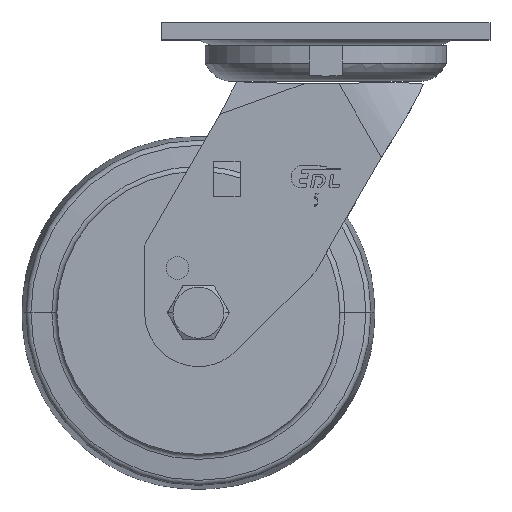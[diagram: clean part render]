
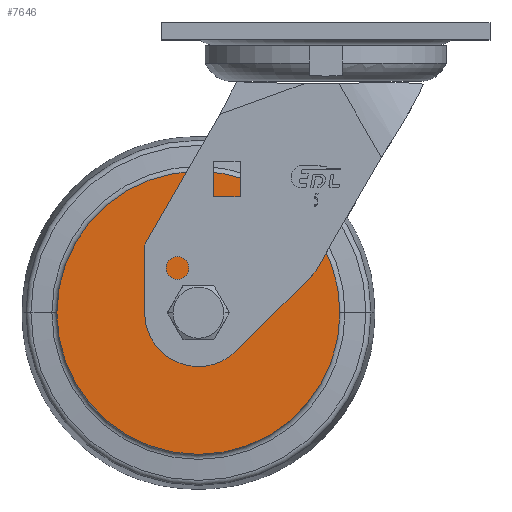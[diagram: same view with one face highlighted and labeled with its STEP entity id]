
A CAD part, top view. The second image highlights one B-rep face of the part: STEP entity #7646.
In plain terms, the highlighted planar face has unit normal (0, 0, 1) as drawn and (-1, 0, 0) by its records, which use the part's own axes.
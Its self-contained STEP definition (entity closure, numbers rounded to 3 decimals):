
#7181=CARTESIAN_POINT('',(-25.,0.,0.));
#7182=DIRECTION('',(-1.,0.,0.));
#7183=DIRECTION('',(0.,1.,0.));
#7184=AXIS2_PLACEMENT_3D('',#7181,#7182,#7183);
#7186=CARTESIAN_POINT('',(-25.,0.,0.));
#7187=DIRECTION('',(1.,0.,0.));
#7188=DIRECTION('',(0.,1.,0.));
#7189=AXIS2_PLACEMENT_3D('',#7186,#7187,#7188);
#7191=CARTESIAN_POINT('',(-25.,0.,0.));
#7192=DIRECTION('',(1.,0.,0.));
#7193=DIRECTION('',(0.,1.,0.));
#7194=AXIS2_PLACEMENT_3D('',#7191,#7192,#7193);
#7204=CARTESIAN_POINT('',(-25.,0.,0.));
#7205=DIRECTION('',(-1.,0.,0.));
#7206=DIRECTION('',(0.,1.,0.));
#7207=AXIS2_PLACEMENT_3D('',#7204,#7205,#7206);
#7335=CARTESIAN_POINT('',(-25.,50.,0.));
#7336=VERTEX_POINT('',#7335);
#7337=CARTESIAN_POINT('',(-25.,12.,0.));
#7339=VERTEX_POINT('',#7337);
#7367=CARTESIAN_POINT('',(-25.,-50.,0.));
#7368=VERTEX_POINT('',#7367);
#7369=CARTESIAN_POINT('',(-25.,-12.,0.));
#7371=VERTEX_POINT('',#7369);
#7631=CARTESIAN_POINT('',(-25.,0.,0.));
#7632=DIRECTION('',(1.,0.,0.));
#7633=DIRECTION('',(0.,-1.,0.));
#7634=AXIS2_PLACEMENT_3D('',#7631,#7632,#7633);
#7635=PLANE('',#7634);
#7636=ORIENTED_EDGE('',*,*,#7624,.F.);
#7637=ORIENTED_EDGE('',*,*,#7613,.T.);
#7638=EDGE_LOOP('',(#7636,#7637));
#7639=FACE_OUTER_BOUND('',#7638,.F.);
#7641=ORIENTED_EDGE('',*,*,#7640,.F.);
#7643=ORIENTED_EDGE('',*,*,#7642,.T.);
#7644=EDGE_LOOP('',(#7641,#7643));
#7645=FACE_BOUND('',#7644,.F.);
#7185=CIRCLE('',#7184,50.);
#7190=CIRCLE('',#7189,50.);
#7195=CIRCLE('',#7194,12.);
#7208=CIRCLE('',#7207,12.);
#7613=EDGE_CURVE('',#7336,#7368,#7190,.T.);
#7624=EDGE_CURVE('',#7336,#7368,#7185,.T.);
#7640=EDGE_CURVE('',#7339,#7371,#7195,.T.);
#7642=EDGE_CURVE('',#7339,#7371,#7208,.T.);
#7646=ADVANCED_FACE('',(#7639,#7645),#7635,.F.);
